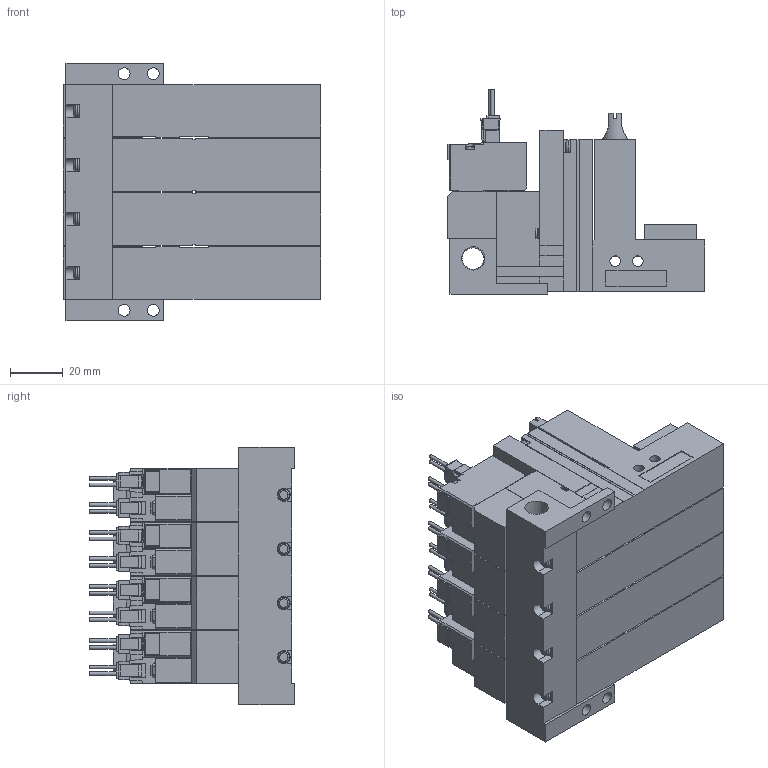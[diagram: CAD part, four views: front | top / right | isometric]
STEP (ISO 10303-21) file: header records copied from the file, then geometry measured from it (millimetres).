
FILE_DESCRIPTION(('STEP AP203'),'1');
FILE_NAME('ZLC5ALR404.stp','2025-02-18T23:27:38',(' '),(' '),'Spatial InterOp 3D',' ',' ');
FILE_SCHEMA(('CONFIG_CONTROL_DESIGN'));
Length unit declared in the file: millimetre
Products named in the file (5): BMC22M※※※※ZLC5ALR404; Solenoid valve A; Pressure sensor ZLC; Unit LC; Base MR40R
Assembly tree (13 placements, depth 2):
  BMC22M※※※※ZLC5ALR404
    Solenoid valve A  x4
    Pressure sensor ZLC  x4
    Unit LC  x4
    Base MR40R
Bounding box: 97.6 x 77.45 x 97.5 mm (x, y, z)
Volume: 361812.7 mm3; surface area: 96497.4 mm2
Topology: 13 solids, 13 shells, 1549 faces, 4203 edges, 2756 vertices
Faces by surface type: plane 1334, cylinder 165, cone 30, torus 20
Full cylindrical faces by diameter (mm): 1.4 x16, 2.5 x4, 3 x16, 3.5 x16, 3.6 x4, 4 x8, 4.134 x4, 4.5 x4, 5.2 x4, 6 x4, 6.6 x4, 8.279 x1
Entity records: 14087 total; most frequent: CARTESIAN_POINT 2688, ORIENTED_EDGE 2242, DIRECTION 2221, EDGE_CURVE 1121, LINE 937, VECTOR 937, VERTEX_POINT 773, AXIS2_PLACEMENT_3D 642
